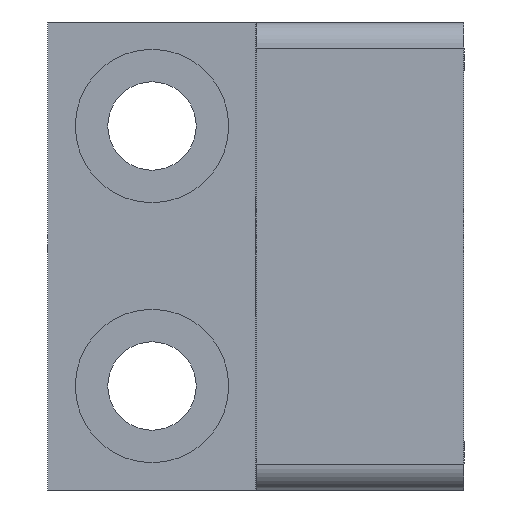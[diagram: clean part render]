
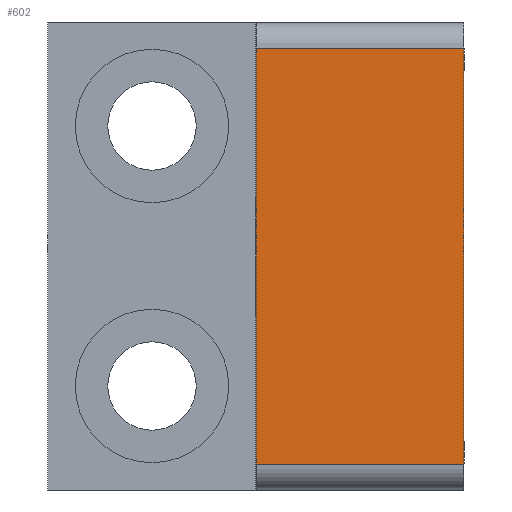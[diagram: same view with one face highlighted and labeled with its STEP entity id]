
A CAD part, left-side view. The second image highlights one B-rep face of the part: STEP entity #602.
In plain terms, the highlighted planar face has unit normal (-1, 0, 0).
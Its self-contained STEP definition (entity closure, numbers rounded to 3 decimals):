
#111=PLANE('',#660);
#124=FACE_OUTER_BOUND('',#157,.T.);
#157=EDGE_LOOP('',(#459,#460,#461,#462));
#195=LINE('',#879,#241);
#196=LINE('',#882,#242);
#204=LINE('',#914,#250);
#205=LINE('',#915,#251);
#241=VECTOR('',#715,10.);
#242=VECTOR('',#718,10.);
#250=VECTOR('',#744,10.);
#251=VECTOR('',#745,10.);
#316=VERTEX_POINT('',#872);
#319=VERTEX_POINT('',#877);
#320=VERTEX_POINT('',#881);
#335=VERTEX_POINT('',#913);
#367=EDGE_CURVE('',#319,#316,#195,.T.);
#368=EDGE_CURVE('',#320,#316,#196,.T.);
#384=EDGE_CURVE('',#335,#319,#204,.T.);
#385=EDGE_CURVE('',#320,#335,#205,.T.);
#459=ORIENTED_EDGE('',*,*,#367,.F.);
#460=ORIENTED_EDGE('',*,*,#384,.F.);
#461=ORIENTED_EDGE('',*,*,#385,.F.);
#462=ORIENTED_EDGE('',*,*,#368,.T.);
#602=ADVANCED_FACE('',(#124),#111,.T.);
#660=AXIS2_PLACEMENT_3D('',#912,#742,#743);
#715=DIRECTION('',(0.,-1.,0.));
#718=DIRECTION('',(0.,0.,1.));
#742=DIRECTION('center_axis',(-1.,0.,0.));
#743=DIRECTION('ref_axis',(0.,-1.,0.));
#744=DIRECTION('',(0.,0.,1.));
#745=DIRECTION('',(0.,1.,0.));
#872=CARTESIAN_POINT('',(-24.25,0.,8.));
#877=CARTESIAN_POINT('',(-24.25,8.,8.));
#879=CARTESIAN_POINT('',(-24.25,8.,8.));
#881=CARTESIAN_POINT('',(-24.25,0.,-8.));
#882=CARTESIAN_POINT('',(-24.25,0.,0.));
#912=CARTESIAN_POINT('Origin',(-24.25,8.,0.));
#913=CARTESIAN_POINT('',(-24.25,8.,-8.));
#914=CARTESIAN_POINT('',(-24.25,8.,0.));
#915=CARTESIAN_POINT('',(-24.25,8.,-8.));
